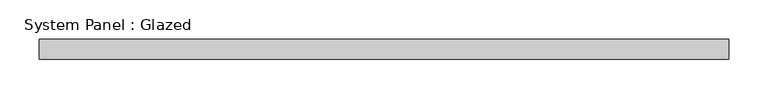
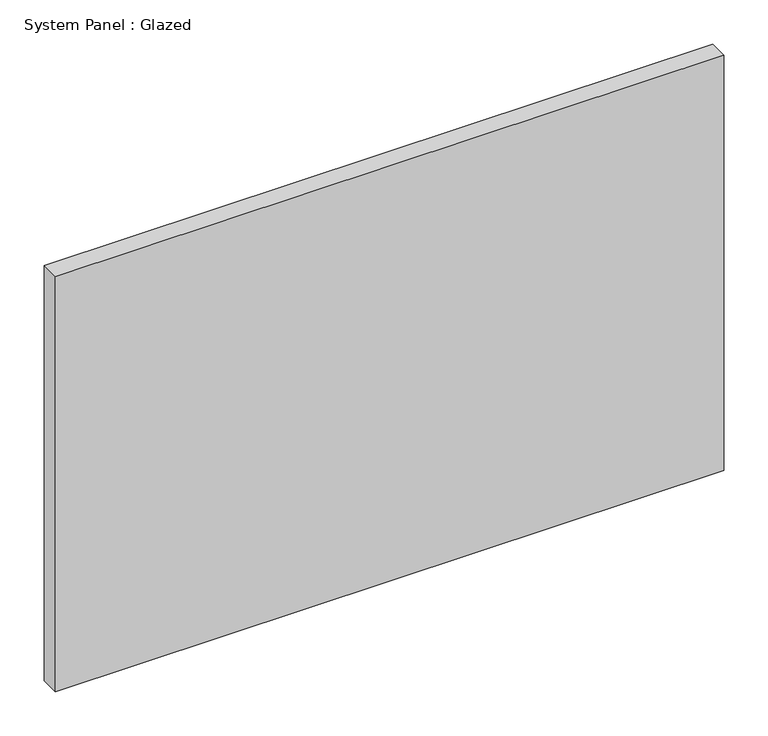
"""IFC4 building model written with IfcOpenShell, lengths in millimetres: plate geometry, System Panel : Glazed."""

from ifc_helpers import new_model, si_unit, origin, origin_with_axes, place, context, project, spatial, polyline, outline, extrude, source, transform, mapped, element, save


def system_panel_glazed_923841d8(model_context):
    return source(origin(), model_context, "Body", "SweptSolid", [
        extrude(outline(polyline([(437.5, -72.5), (-437.5, -72.5), (-437.5, -47.5), (437.5, -47.5), (437.5, -72.5)])), origin_with_axes(), (0.0, 0.0, 1.0), 575.0),
    ])


if __name__ == "__main__":
    model = new_model("IFC4")
    model_context = context("Model", 3, world=origin())
    ifc_project = project(units=[si_unit("LENGTHUNIT", "METRE", prefix="MILLI")], contexts=[model_context])
    site = spatial("IfcSite", under=ifc_project)
    building = spatial("IfcBuilding", under=site)
    placement = place(None, origin())
    system_panel_glazed_shape = system_panel_glazed_923841d8(model_context)
    element("IfcPlate", 1, ObjectType="System Panel : Glazed", at=placement, inside=building, context=model_context, shape_type="MappedRepresentation", body=[
        mapped(system_panel_glazed_shape, transform((0.0, 0.0, 0.0), x_axis=(1.0, 0.0, 0.0), y_axis=(0.0, 1.0, 0.0), z_axis=(0.0, 0.0, 1.0))),
    ])
    save(model, "model.ifc")
